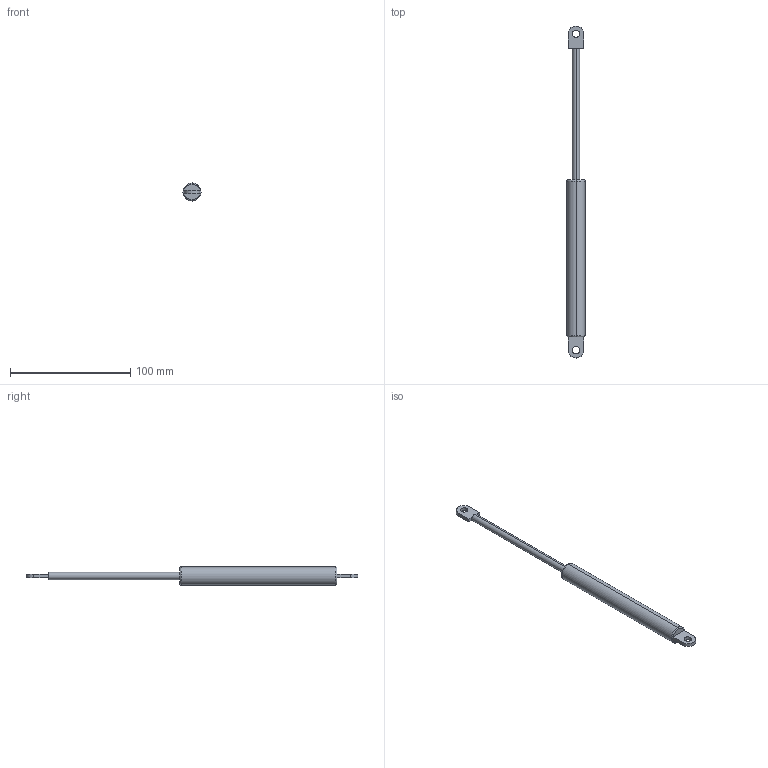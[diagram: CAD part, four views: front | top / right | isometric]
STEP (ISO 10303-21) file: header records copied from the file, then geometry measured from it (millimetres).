
FILE_DESCRIPTION (( 'STEP AP214' ), '1' );
FILE_NAME ('084.527.002.STEP', '2022-09-30T08:43:45', ( '' ), ( '' ), 'SwSTEP 2.0', 'SolidWorks 2021', '' );
FILE_SCHEMA (( 'AUTOMOTIVE_DESIGN' ));
Length unit declared in the file: millimetre
Products named in the file (3): 084.527.002 - CORPO; 084.527.002; 084.527.002 - STELO_Default<A macchina>
Assembly tree (2 placements, depth 2):
  084.527.002
    084.527.002 - CORPO
    084.527.002 - STELO_Default<A macchina>
Bounding box: 15 x 276 x 15 mm (x, y, z)
Volume: 27689.9 mm3; surface area: 9960.1 mm2
Topology: 2 solids, 2 shells, 30 faces, 70 edges, 44 vertices
Faces by surface type: plane 16, cylinder 10, torus 4
Entity records: 992 total; most frequent: CARTESIAN_POINT 171, DIRECTION 168, ORIENTED_EDGE 140, EDGE_CURVE 70, AXIS2_PLACEMENT_3D 69, VERTEX_POINT 44, CIRCLE 34, EDGE_LOOP 34
